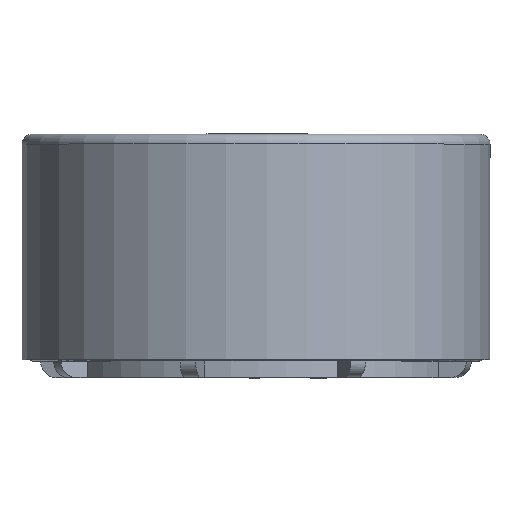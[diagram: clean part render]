
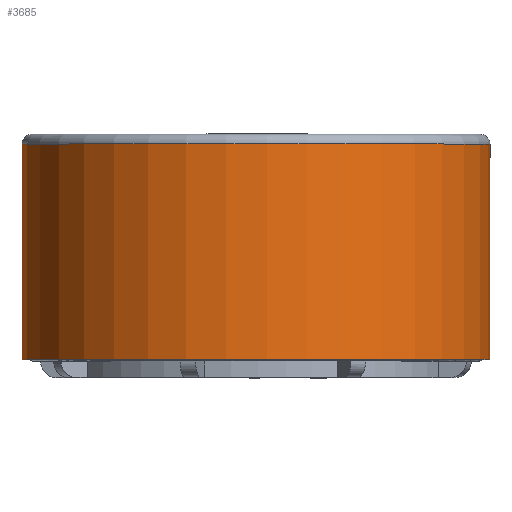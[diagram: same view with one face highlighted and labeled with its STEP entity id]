
A CAD part, top view. The second image highlights one B-rep face of the part: STEP entity #3685.
In plain terms, the highlighted cylindrical face has radius 14.25 mm (diameter 28.5 mm), a full revolution.
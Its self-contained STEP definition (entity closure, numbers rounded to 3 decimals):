
#360=FACE_OUTER_BOUND('',#558,.T.);
#558=EDGE_LOOP('',(#3034,#3035,#3036,#3037,#3038,#3039));
#869=LINE('',#6268,#1161);
#1161=VECTOR('',#5062,14.25);
#1285=CIRCLE('',#3942,14.25);
#1286=CIRCLE('',#3943,14.25);
#1343=CIRCLE('',#4065,14.25);
#1344=CIRCLE('',#4066,14.25);
#1541=VERTEX_POINT('',#5734);
#1542=VERTEX_POINT('',#5735);
#1679=VERTEX_POINT('',#6267);
#1680=VERTEX_POINT('',#6269);
#1976=EDGE_CURVE('',#1541,#1542,#1285,.T.);
#1977=EDGE_CURVE('',#1542,#1541,#1286,.T.);
#2162=EDGE_CURVE('',#1542,#1679,#869,.T.);
#2163=EDGE_CURVE('',#1680,#1679,#1343,.T.);
#2164=EDGE_CURVE('',#1679,#1680,#1344,.T.);
#3034=ORIENTED_EDGE('',*,*,#1976,.F.);
#3035=ORIENTED_EDGE('',*,*,#1977,.F.);
#3036=ORIENTED_EDGE('',*,*,#2162,.T.);
#3037=ORIENTED_EDGE('',*,*,#2163,.F.);
#3038=ORIENTED_EDGE('',*,*,#2164,.F.);
#3039=ORIENTED_EDGE('',*,*,#2162,.F.);
#3320=CYLINDRICAL_SURFACE('',#4064,14.25);
#3685=ADVANCED_FACE('',(#360),#3320,.T.);
#3942=AXIS2_PLACEMENT_3D('',#5736,#4704,#4705);
#3943=AXIS2_PLACEMENT_3D('',#5737,#4706,#4707);
#4064=AXIS2_PLACEMENT_3D('',#6266,#5060,#5061);
#4065=AXIS2_PLACEMENT_3D('',#6270,#5063,#5064);
#4066=AXIS2_PLACEMENT_3D('',#6271,#5065,#5066);
#4704=DIRECTION('center_axis',(0.,-1.,0.));
#4705=DIRECTION('ref_axis',(0.46,0.,-0.888));
#4706=DIRECTION('center_axis',(0.,-1.,0.));
#4707=DIRECTION('ref_axis',(0.46,0.,-0.888));
#5060=DIRECTION('center_axis',(0.,-1.,0.));
#5061=DIRECTION('ref_axis',(0.46,0.,-0.888));
#5062=DIRECTION('',(0.,1.,0.));
#5063=DIRECTION('center_axis',(0.,1.,0.));
#5064=DIRECTION('ref_axis',(0.888,0.,0.46));
#5065=DIRECTION('center_axis',(0.,1.,0.));
#5066=DIRECTION('ref_axis',(0.888,0.,0.46));
#5734=CARTESIAN_POINT('',(16.065,-5.318,-37.96));
#5735=CARTESIAN_POINT('',(2.95,-5.318,-12.657));
#5736=CARTESIAN_POINT('Origin',(9.508,-5.318,-25.308));
#5737=CARTESIAN_POINT('Origin',(9.508,-5.318,-25.308));
#6266=CARTESIAN_POINT('Origin',(9.508,1.032,-25.308));
#6267=CARTESIAN_POINT('',(2.95,7.782,-12.657));
#6268=CARTESIAN_POINT('',(2.95,1.032,-12.657));
#6269=CARTESIAN_POINT('',(-3.144,7.782,-31.866));
#6270=CARTESIAN_POINT('Origin',(9.508,7.782,-25.308));
#6271=CARTESIAN_POINT('Origin',(9.508,7.782,-25.308));
